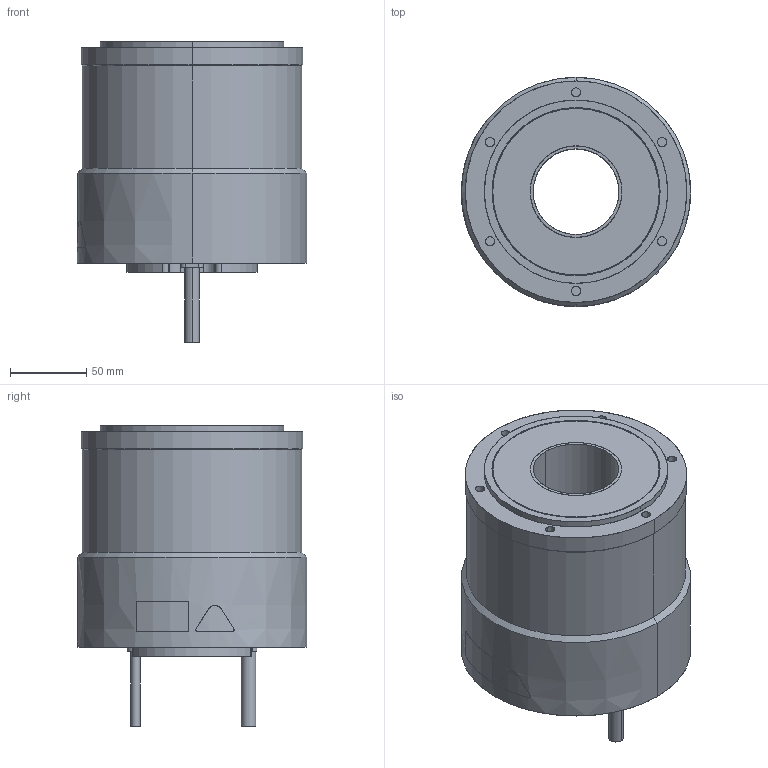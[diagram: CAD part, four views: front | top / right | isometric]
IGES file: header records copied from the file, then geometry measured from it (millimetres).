
Start section: SolidWorks IGES file using analytic representation for surfaces
Bounding box: 150.06 x 150 x 197 mm (x, y, z)
Surface area: 134357.2 mm2 (no closed solid volume)
Topology: 0 solids, 0 shells, 170 faces, 3730 edges, 3730 vertices
Faces by surface type: revolution 109, bspline 61
